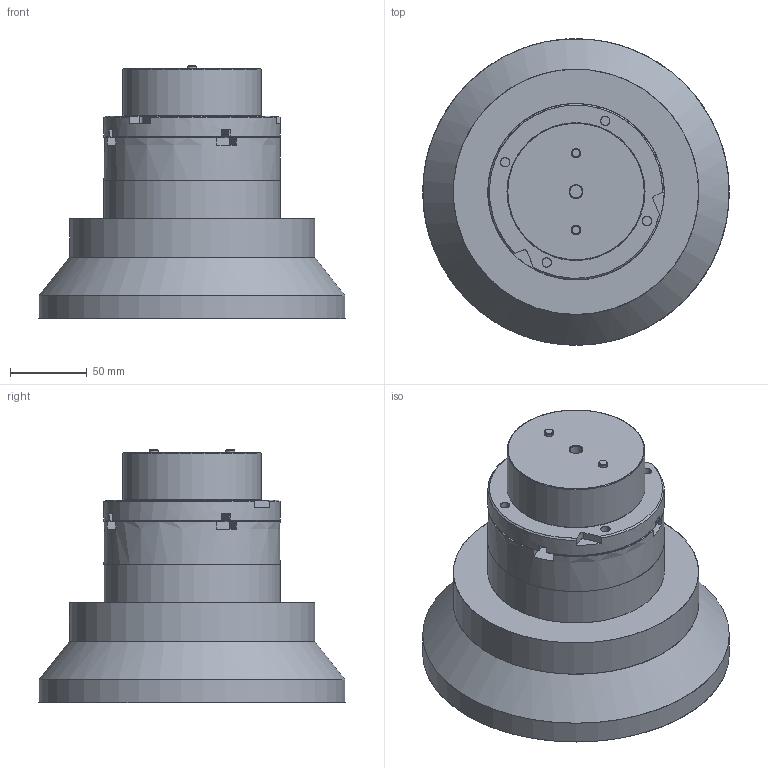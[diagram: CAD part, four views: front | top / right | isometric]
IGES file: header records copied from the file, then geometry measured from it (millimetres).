
Start section: Iges File created by ES
Global section: native system: ES; preprocessor: IGES.4B00; organization: JingDiao; units: millimetre
Bounding box: 200.01 x 200.01 x 165 mm (x, y, z)
Surface area: 239553 mm2 (no closed solid volume)
Topology: 0 solids, 0 shells, 247 faces, 4475 edges, 4377 vertices
Faces by surface type: revolution 155, bspline 92
